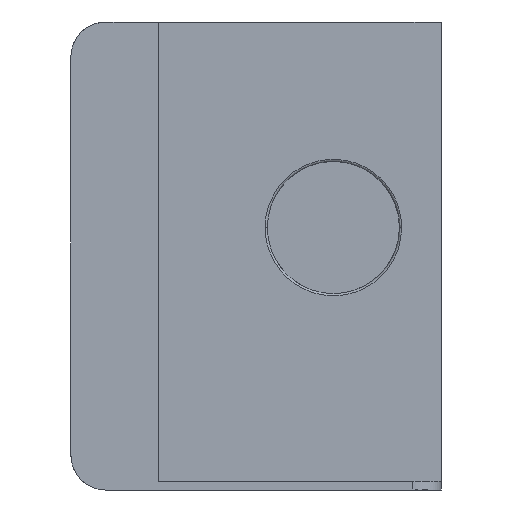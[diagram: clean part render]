
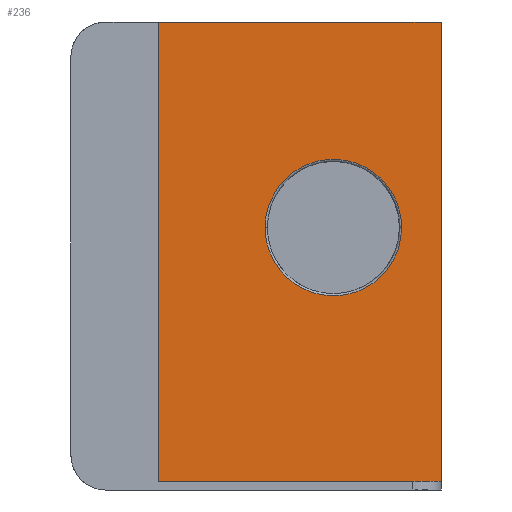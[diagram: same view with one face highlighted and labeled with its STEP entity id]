
A CAD part, front view. The second image highlights one B-rep face of the part: STEP entity #236.
In plain terms, the highlighted planar face has unit normal (0, -1, 0).
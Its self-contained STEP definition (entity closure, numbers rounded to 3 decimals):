
#34=FACE_BOUND('',#1041,.T.);
#236=ADVANCED_FACE('',(#631,#34),#6111,.T.);
#631=FACE_OUTER_BOUND('',#1040,.T.);
#1040=EDGE_LOOP('',(#1712,#1713,#1714,#1715));
#1041=EDGE_LOOP('',(#1716,#1717));
#1712=ORIENTED_EDGE('',*,*,#3396,.T.);
#1713=ORIENTED_EDGE('',*,*,#3521,.T.);
#1714=ORIENTED_EDGE('',*,*,#3514,.F.);
#1715=ORIENTED_EDGE('',*,*,#3519,.F.);
#1716=ORIENTED_EDGE('',*,*,#3506,.T.);
#1717=ORIENTED_EDGE('',*,*,#3570,.T.);
#3396=EDGE_CURVE('',#5353,#5356,#5122,.T.);
#3506=EDGE_CURVE('',#5434,#5467,#5169,.T.);
#3514=EDGE_CURVE('',#5441,#5436,#4414,.T.);
#3519=EDGE_CURVE('',#5353,#5441,#4416,.T.);
#3521=EDGE_CURVE('',#5356,#5436,#4417,.T.);
#3570=EDGE_CURVE('',#5467,#5434,#5216,.T.);
#4414=B_SPLINE_CURVE_WITH_KNOTS('',1,(#15761,#15762,#15763),
 .UNSPECIFIED.,.F.,.F.,(2,1,2),(106.,108.,206.),.UNSPECIFIED.);
#4416=B_SPLINE_CURVE_WITH_KNOTS('',1,(#15777,#15778),.UNSPECIFIED.,.F.,
 .F.,(2,2),(419.657,479.657),.UNSPECIFIED.);
#4417=B_SPLINE_CURVE_WITH_KNOTS('',1,(#15782,#15783,#15784),
 .UNSPECIFIED.,.F.,.F.,(2,1,2),(0.,9.285,60.),.UNSPECIFIED.);
#5122=(
BOUNDED_CURVE()
B_SPLINE_CURVE(3,(#14058,#14059,#14060,#14061,#14062,#14063,#14064,#14065,
#14066,#14067,#14068,#14069,#14070,#14071,#14072,#14073,#14074,#14075,#14076,
#14077,#14078,#14079,#14080,#14081,#14082,#14083,#14084,#14085),
 .UNSPECIFIED.,.F.,.F.)
B_SPLINE_CURVE_WITH_KNOTS((4,3,3,3,3,3,3,3,3,4),(-357.,-355.,
-343.271,-323.771,-310.352,-308.352,
-282.802,-280.802,-278.81,-252.698),
 .UNSPECIFIED.)
CURVE()
GEOMETRIC_REPRESENTATION_ITEM()
RATIONAL_B_SPLINE_CURVE((1.,1.,1.,1.,1.,1.,1.,1.,1.,1.,1.,1.,1.,1.,1.,1.,
1.,1.,1.,1.,1.,1.,1.,1.,1.,1.,1.,1.))
REPRESENTATION_ITEM('')
);
#5169=(
BOUNDED_CURVE()
B_SPLINE_CURVE(2,(#15737,#15738,#15739,#15740,#15741),.UNSPECIFIED.,.F.,
 .F.)
B_SPLINE_CURVE_WITH_KNOTS((3,2,3),(0.,24.504,49.008),
 .UNSPECIFIED.)
CURVE()
GEOMETRIC_REPRESENTATION_ITEM()
RATIONAL_B_SPLINE_CURVE((1.,0.707,1.,0.707,1.))
REPRESENTATION_ITEM('')
);
#5216=(
BOUNDED_CURVE()
B_SPLINE_CURVE(2,(#16133,#16134,#16135,#16136,#16137),.UNSPECIFIED.,.F.,
 .F.)
B_SPLINE_CURVE_WITH_KNOTS((3,2,3),(49.008,73.513,98.017),
 .UNSPECIFIED.)
CURVE()
GEOMETRIC_REPRESENTATION_ITEM()
RATIONAL_B_SPLINE_CURVE((1.,0.707,1.,0.707,1.))
REPRESENTATION_ITEM('')
);
#5353=VERTEX_POINT('',#13942);
#5356=VERTEX_POINT('',#13945);
#5434=VERTEX_POINT('',#14023);
#5436=VERTEX_POINT('',#14025);
#5441=VERTEX_POINT('',#14030);
#5467=VERTEX_POINT('',#14056);
#6111=PLANE('',#6316);
#6316=AXIS2_PLACEMENT_3D('',#13770,#6504,$);
#6504=DIRECTION('',(0.,-1.,0.));
#13770=CARTESIAN_POINT('',(41.889,-51.235,-292.116));
#13942=CARTESIAN_POINT('',(51.903,-51.235,64.884));
#13945=CARTESIAN_POINT('',(51.903,-51.235,-40.116));
#14023=CARTESIAN_POINT('',(107.503,-51.235,17.884));
#14025=CARTESIAN_POINT('',(116.525,-51.235,-40.116));
#14030=CARTESIAN_POINT('',(116.525,-51.235,64.884));
#14056=CARTESIAN_POINT('',(76.303,-51.235,17.884));
#14058=CARTESIAN_POINT('',(51.903,-51.235,64.884));
#14059=CARTESIAN_POINT('',(51.903,-51.235,64.217));
#14060=CARTESIAN_POINT('',(51.903,-51.235,63.551));
#14061=CARTESIAN_POINT('',(51.903,-51.235,62.884));
#14062=CARTESIAN_POINT('',(51.903,-51.235,58.974));
#14063=CARTESIAN_POINT('',(51.904,-51.235,55.065));
#14064=CARTESIAN_POINT('',(51.904,-51.235,51.155));
#14065=CARTESIAN_POINT('',(51.904,-51.235,44.655));
#14066=CARTESIAN_POINT('',(51.904,-51.235,38.155));
#14067=CARTESIAN_POINT('',(51.904,-51.235,31.655));
#14068=CARTESIAN_POINT('',(51.904,-51.235,27.182));
#14069=CARTESIAN_POINT('',(51.904,-51.235,22.709));
#14070=CARTESIAN_POINT('',(51.904,-51.235,18.236));
#14071=CARTESIAN_POINT('',(51.904,-51.235,17.569));
#14072=CARTESIAN_POINT('',(51.904,-51.235,16.903));
#14073=CARTESIAN_POINT('',(51.904,-51.235,16.236));
#14074=CARTESIAN_POINT('',(51.904,-51.235,7.72));
#14075=CARTESIAN_POINT('',(51.904,-51.235,-0.797));
#14076=CARTESIAN_POINT('',(51.904,-51.235,-9.313));
#14077=CARTESIAN_POINT('',(51.904,-51.235,-9.98));
#14078=CARTESIAN_POINT('',(51.904,-51.235,-10.647));
#14079=CARTESIAN_POINT('',(51.904,-51.235,-11.313));
#14080=CARTESIAN_POINT('',(51.904,-51.235,-11.978));
#14081=CARTESIAN_POINT('',(51.904,-51.235,-12.642));
#14082=CARTESIAN_POINT('',(51.903,-51.235,-13.306));
#14083=CARTESIAN_POINT('',(51.903,-51.235,-22.242));
#14084=CARTESIAN_POINT('',(51.903,-51.235,-31.179));
#14085=CARTESIAN_POINT('',(51.903,-51.235,-40.116));
#15737=CARTESIAN_POINT('',(107.503,-51.235,17.884));
#15738=CARTESIAN_POINT('',(107.503,-51.235,2.284));
#15739=CARTESIAN_POINT('',(91.903,-51.235,2.284));
#15740=CARTESIAN_POINT('',(76.303,-51.235,2.284));
#15741=CARTESIAN_POINT('',(76.303,-51.235,17.884));
#15761=CARTESIAN_POINT('',(116.525,-51.235,64.884));
#15762=CARTESIAN_POINT('',(116.525,-51.235,57.884));
#15763=CARTESIAN_POINT('',(116.525,-51.235,-40.116));
#15777=CARTESIAN_POINT('',(51.903,-51.235,64.884));
#15778=CARTESIAN_POINT('',(116.525,-51.235,64.884));
#15782=CARTESIAN_POINT('',(51.903,-51.235,-40.116));
#15783=CARTESIAN_POINT('',(61.904,-51.235,-40.116));
#15784=CARTESIAN_POINT('',(116.525,-51.235,-40.116));
#16133=CARTESIAN_POINT('',(76.303,-51.235,17.884));
#16134=CARTESIAN_POINT('',(76.303,-51.235,33.484));
#16135=CARTESIAN_POINT('',(91.903,-51.235,33.484));
#16136=CARTESIAN_POINT('',(107.503,-51.235,33.484));
#16137=CARTESIAN_POINT('',(107.503,-51.235,17.884));
